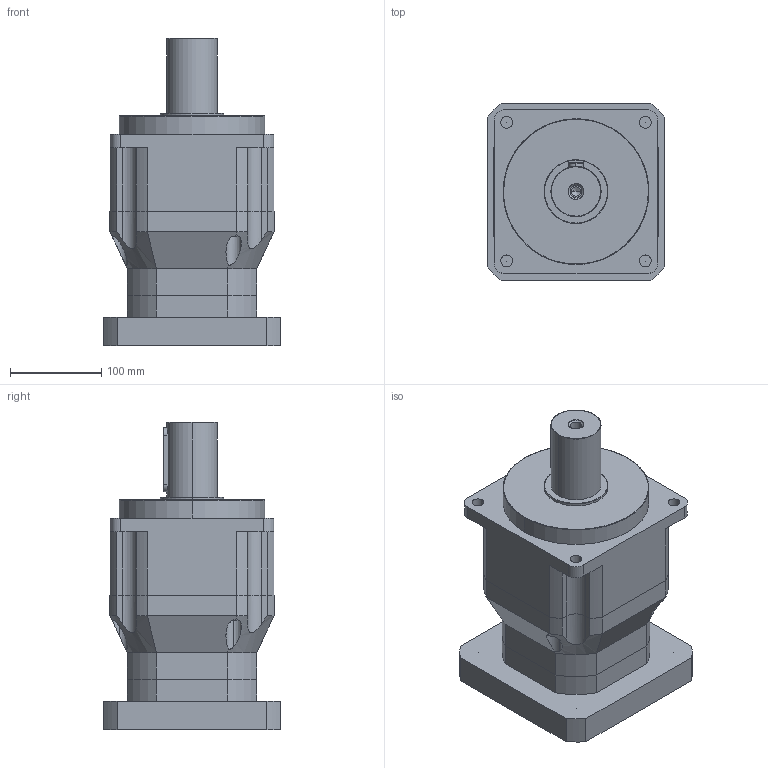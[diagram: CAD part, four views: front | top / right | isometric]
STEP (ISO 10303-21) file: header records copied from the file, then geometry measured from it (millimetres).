
FILE_DESCRIPTION (( 'STEP AP214' ), '1' );
FILE_NAME ('PAB180-L2-S2-P2 38-180-215-M12.STEP', '2019-10-29T08:28:21', ( '微软用户' ), ( '微软中国' ), 'SwSTEP 2.0', 'SolidWorks 2014', '' );
FILE_SCHEMA (( 'AUTOMOTIVE_DESIGN' ));
Length unit declared in the file: millimetre
Products named in the file (2): PAB180-L2-S2-P2 38-180-215-M12
Bounding box: 195 x 195 x 337 mm (x, y, z)
Volume: 6355080.2 mm3; surface area: 451585 mm2
Topology: 4 solids, 4 shells, 854 faces, 2414 edges, 1595 vertices
Faces by surface type: plane 647, cylinder 121, bspline 70, cone 16
Entity records: 37819 total; most frequent: CARTESIAN_POINT 6591, ORIENTED_EDGE 4802, DIRECTION 4045, EDGE_CURVE 2401, LINE 1967, VECTOR 1967, VERTEX_POINT 1595, AXIS2_PLACEMENT_3D 1039
